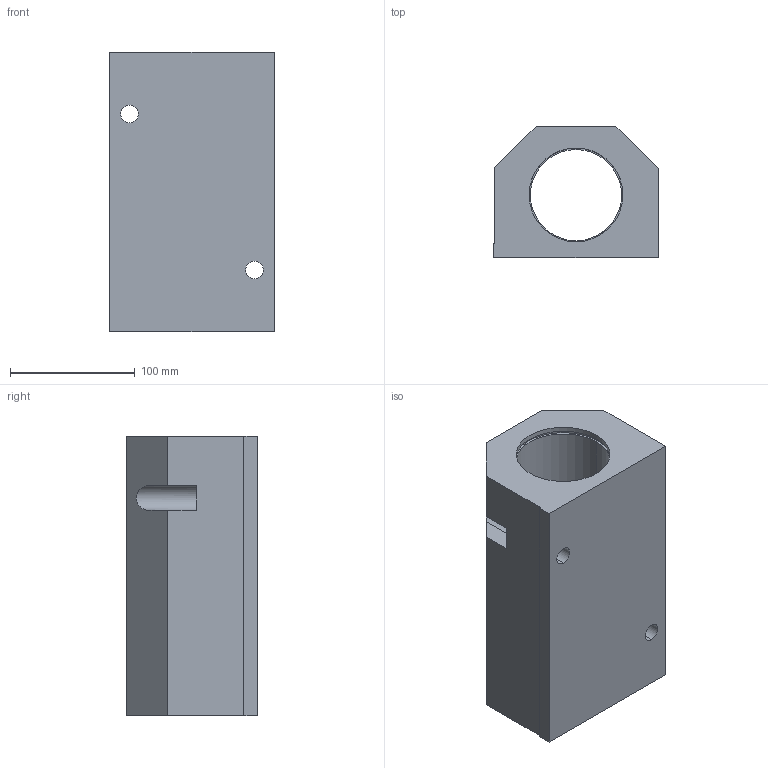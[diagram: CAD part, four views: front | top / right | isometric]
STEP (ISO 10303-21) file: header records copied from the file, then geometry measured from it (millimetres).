
FILE_DESCRIPTION (( 'STEP AP214' ), '1' );
FILE_NAME ('KTG85-50.step', '2020-03-04T13:26:04', ( '' ), ( '' ), 'SwSTEP 2.0', 'SolidWorks 2019', '' );
FILE_SCHEMA (( 'AUTOMOTIVE_DESIGN' ));
Length unit declared in the file: millimetre
Products named in the file (1): KTG85-50
Bounding box: 132 x 105 x 224 mm (x, y, z)
Volume: 1794208.2 mm3; surface area: 176566 mm2
Topology: 1 solids, 1 shells, 48 faces, 116 edges, 76 vertices
Faces by surface type: cylinder 24, plane 22, cone 2
Entity records: 1588 total; most frequent: CARTESIAN_POINT 311, DIRECTION 254, ORIENTED_EDGE 232, EDGE_CURVE 116, AXIS2_PLACEMENT_3D 93, VERTEX_POINT 76, VECTOR 68, LINE 68
